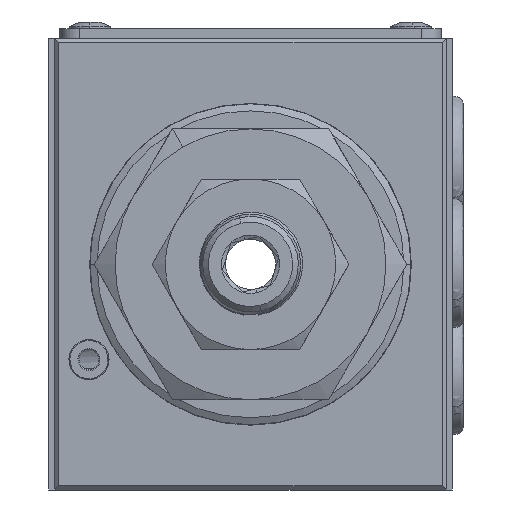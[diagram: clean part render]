
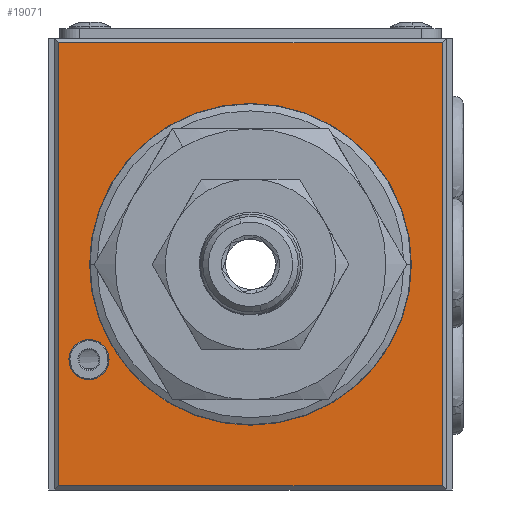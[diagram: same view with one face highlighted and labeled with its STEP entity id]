
A CAD part, left-side view. The second image highlights one B-rep face of the part: STEP entity #19071.
In plain terms, the highlighted planar face has unit normal (-1, 0, 0).
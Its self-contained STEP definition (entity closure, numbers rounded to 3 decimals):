
#925 = DIRECTION ( 'NONE',  ( -1., 0., 0. ) ) ;
#1422 = CARTESIAN_POINT ( 'NONE',  ( -41.7, 0., 22.5 ) ) ;
#1623 = VECTOR ( 'NONE', #12226, 1000. ) ;
#2055 = CARTESIAN_POINT ( 'NONE',  ( -41.7, 14.1, 13. ) ) ;
#3274 = EDGE_LOOP ( 'NONE', ( #16813, #50839, #18312, #5543 ) ) ;
#3472 = EDGE_CURVE ( 'NONE', #15647, #59941, #34135, .T. ) ;
#3733 = CARTESIAN_POINT ( 'NONE',  ( -41.7, 19.1, 0.4 ) ) ;
#5191 = AXIS2_PLACEMENT_3D ( 'NONE', #1422, #33852, #19872 ) ;
#5543 = ORIENTED_EDGE ( 'NONE', *, *, #3472, .T. ) ;
#5665 = CARTESIAN_POINT ( 'NONE',  ( -41.7, 20.1, 45. ) ) ;
#6303 = AXIS2_PLACEMENT_3D ( 'NONE', #12656, #53583, #35197 ) ;
#10174 = DIRECTION ( 'NONE',  ( 0., 1., 0. ) ) ;
#11656 = FACE_BOUND ( 'NONE', #33247, .T. ) ;
#12226 = DIRECTION ( 'NONE',  ( 0., 0., -1. ) ) ;
#12656 = CARTESIAN_POINT ( 'NONE',  ( -41.7, 0., 22.5 ) ) ;
#14141 = CARTESIAN_POINT ( 'NONE',  ( -41.7, -19.1, 44.6 ) ) ;
#14996 = AXIS2_PLACEMENT_3D ( 'NONE', #5665, #42329, #56735 ) ;
#15647 = VERTEX_POINT ( 'NONE', #14141 ) ;
#15907 = CIRCLE ( 'NONE', #6303, 16.039 ) ;
#16100 = CARTESIAN_POINT ( 'NONE',  ( -41.7, 20.1, 0.4 ) ) ;
#16813 = ORIENTED_EDGE ( 'NONE', *, *, #45200, .T. ) ;
#16824 = LINE ( 'NONE', #33953, #1623 ) ;
#17036 = ORIENTED_EDGE ( 'NONE', *, *, #17510, .T. ) ;
#17510 = EDGE_CURVE ( 'NONE', #48886, #57005, #23905, .T. ) ;
#17565 = CARTESIAN_POINT ( 'NONE',  ( -41.7, 16.1, 13. ) ) ;
#18312 = ORIENTED_EDGE ( 'NONE', *, *, #34714, .T. ) ;
#19071 = ADVANCED_FACE ( 'NONE', ( #25462, #11656, #23211 ), #24145, .F. ) ;
#19872 = DIRECTION ( 'NONE',  ( 0., 0., -1. ) ) ;
#21737 = VECTOR ( 'NONE', #10174, 1000. ) ;
#23211 = FACE_OUTER_BOUND ( 'NONE', #3274, .T. ) ;
#23820 = CIRCLE ( 'NONE', #28523, 2. ) ;
#23905 = CIRCLE ( 'NONE', #5191, 16.039 ) ;
#24145 = PLANE ( 'NONE',  #14996 ) ;
#25462 = FACE_BOUND ( 'NONE', #51514, .T. ) ;
#26815 = CARTESIAN_POINT ( 'NONE',  ( -41.7, 19.1, 44.6 ) ) ;
#28523 = AXIS2_PLACEMENT_3D ( 'NONE', #17565, #30949, #54201 ) ;
#28690 = CARTESIAN_POINT ( 'NONE',  ( -41.7, 16.1, 13. ) ) ;
#30869 = AXIS2_PLACEMENT_3D ( 'NONE', #28690, #925, #33345 ) ;
#30949 = DIRECTION ( 'NONE',  ( -1., 0., 0. ) ) ;
#32693 = ORIENTED_EDGE ( 'NONE', *, *, #40813, .T. ) ;
#33247 = EDGE_LOOP ( 'NONE', ( #32693, #17036 ) ) ;
#33345 = DIRECTION ( 'NONE',  ( 0., -1., 0. ) ) ;
#33852 = DIRECTION ( 'NONE',  ( 1., 0., 0. ) ) ;
#33953 = CARTESIAN_POINT ( 'NONE',  ( -41.7, 19.1, 0. ) ) ;
#34023 = DIRECTION ( 'NONE',  ( 0., 0., 1. ) ) ;
#34092 = CARTESIAN_POINT ( 'NONE',  ( -41.7, 19.5, 44.6 ) ) ;
#34135 = LINE ( 'NONE', #34092, #21737 ) ;
#34714 = EDGE_CURVE ( 'NONE', #39571, #15647, #37755, .T. ) ;
#35062 = EDGE_CURVE ( 'NONE', #54649, #56927, #41781, .T. ) ;
#35197 = DIRECTION ( 'NONE',  ( 0., 0., -1. ) ) ;
#37755 = LINE ( 'NONE', #51823, #55838 ) ;
#39571 = VERTEX_POINT ( 'NONE', #40097 ) ;
#39681 = CARTESIAN_POINT ( 'NONE',  ( -41.7, 0., 38.539 ) ) ;
#39913 = DIRECTION ( 'NONE',  ( 0., -1., 0. ) ) ;
#40097 = CARTESIAN_POINT ( 'NONE',  ( -41.7, -19.1, 0.4 ) ) ;
#40813 = EDGE_CURVE ( 'NONE', #57005, #48886, #15907, .T. ) ;
#41207 = ORIENTED_EDGE ( 'NONE', *, *, #35062, .F. ) ;
#41781 = CIRCLE ( 'NONE', #30869, 2. ) ;
#42329 = DIRECTION ( 'NONE',  ( 1., 0., 0. ) ) ;
#44723 = CARTESIAN_POINT ( 'NONE',  ( -41.7, 0., 6.461 ) ) ;
#45200 = EDGE_CURVE ( 'NONE', #59941, #48061, #16824, .T. ) ;
#46016 = ORIENTED_EDGE ( 'NONE', *, *, #50539, .F. ) ;
#48061 = VERTEX_POINT ( 'NONE', #3733 ) ;
#48473 = CARTESIAN_POINT ( 'NONE',  ( -41.7, 18.1, 13. ) ) ;
#48886 = VERTEX_POINT ( 'NONE', #44723 ) ;
#50539 = EDGE_CURVE ( 'NONE', #56927, #54649, #23820, .T. ) ;
#50839 = ORIENTED_EDGE ( 'NONE', *, *, #53462, .T. ) ;
#51514 = EDGE_LOOP ( 'NONE', ( #46016, #41207 ) ) ;
#51823 = CARTESIAN_POINT ( 'NONE',  ( -41.7, -19.1, 45. ) ) ;
#53462 = EDGE_CURVE ( 'NONE', #48061, #39571, #56828, .T. ) ;
#53583 = DIRECTION ( 'NONE',  ( 1., 0., 0. ) ) ;
#54201 = DIRECTION ( 'NONE',  ( 0., -1., 0. ) ) ;
#54649 = VERTEX_POINT ( 'NONE', #48473 ) ;
#55838 = VECTOR ( 'NONE', #34023, 1000. ) ;
#56735 = DIRECTION ( 'NONE',  ( 0., 0., -1. ) ) ;
#56828 = LINE ( 'NONE', #16100, #59655 ) ;
#56927 = VERTEX_POINT ( 'NONE', #2055 ) ;
#57005 = VERTEX_POINT ( 'NONE', #39681 ) ;
#59655 = VECTOR ( 'NONE', #39913, 1000. ) ;
#59941 = VERTEX_POINT ( 'NONE', #26815 ) ;
